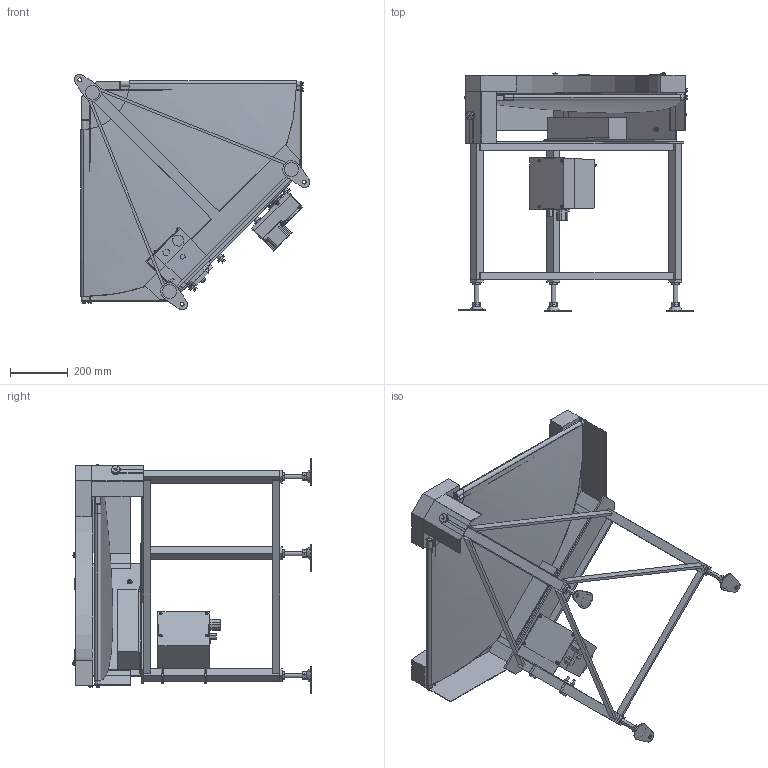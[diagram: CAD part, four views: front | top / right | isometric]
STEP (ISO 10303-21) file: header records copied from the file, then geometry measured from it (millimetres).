
FILE_DESCRIPTION (( 'STEP AP214' ), '1' );
FILE_NAME ('GFBC90-HS500-DC-R.STEP', '2024-01-18T02:51:27', ( '' ), ( '' ), 'SwSTEP 2.0', 'SolidWorks 2017', '' );
FILE_SCHEMA (( 'AUTOMOTIVE_DESIGN' ));
Length unit declared in the file: millimetre
Products named in the file (1): GFBC90-HS500-DC-R
Bounding box: 818.17 x 827.92 x 818.17 mm (x, y, z)
Volume: 21957959.5 mm3; surface area: 4970234.9 mm2
Topology: 64 solids, 65 shells, 1415 faces, 3310 edges, 2116 vertices
Faces by surface type: plane 866, cylinder 408, cone 73, bspline 44, torus 20, sphere 4
Entity records: 47884 total; most frequent: CARTESIAN_POINT 14518, DIRECTION 6795, ORIENTED_EDGE 6572, EDGE_CURVE 3286, AXIS2_PLACEMENT_3D 2346, VERTEX_POINT 2116, LINE 2103, VECTOR 2103
